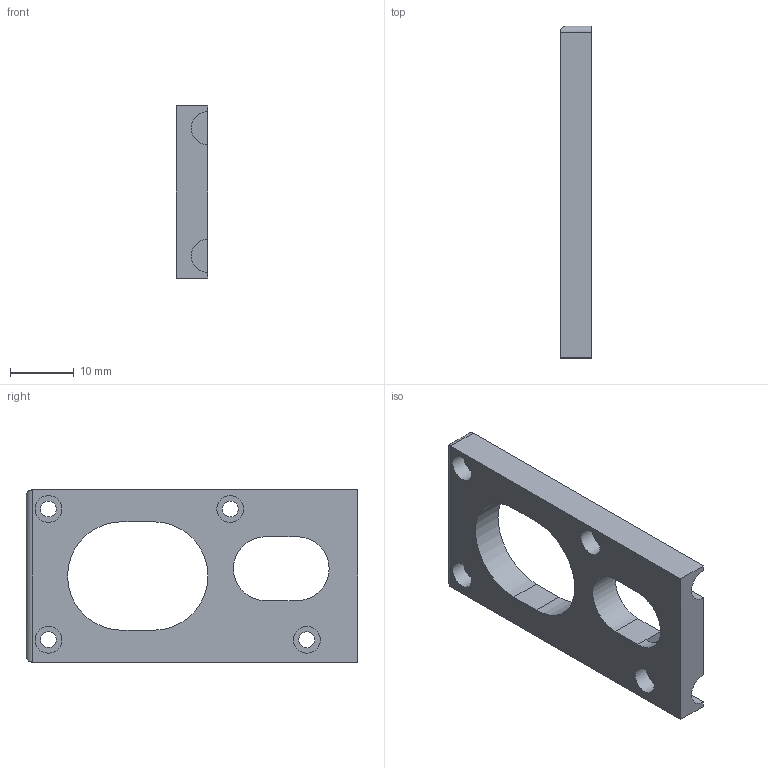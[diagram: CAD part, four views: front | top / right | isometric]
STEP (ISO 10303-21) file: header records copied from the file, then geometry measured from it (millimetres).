
FILE_DESCRIPTION(/* description */ (''),/* implementation_level */ '2;1');
FILE_NAME(/* name */ 'Z:\Flow\Inventor\Spritzenpumpe\Spritzenpumpe beweglich Mutter.stp',/* time_stamp */ '2018-09-10T16:00:53+02:00',/* author */ ('JN'),/* organization */ (''),/* preprocessor_version */ 'ST-DEVELOPER v16.13',/* originating_system */ 'Autodesk Inventor 2018',/* authorisation */ '');
FILE_SCHEMA (('AUTOMOTIVE_DESIGN { 1 0 10303 214 3 1 1 }'));
Length unit declared in the file: millimetre
Products named in the file (1): Spritzenpumpe beweglich Mutter
Bounding box: 5 x 52 x 27 mm (x, y, z)
Volume: 4428.6 mm3; surface area: 3450.8 mm2
Topology: 1 solids, 1 shells, 40 faces, 98 edges, 64 vertices
Faces by surface type: plane 23, cylinder 17
Full cylindrical faces by diameter (mm): 2.5 x4, 4.2 x4
Entity records: 1205 total; most frequent: DIRECTION 204, CARTESIAN_POINT 195, ORIENTED_EDGE 180, EDGE_CURVE 90, AXIS2_PLACEMENT_3D 73, EDGE_LOOP 64, VERTEX_POINT 64, LINE 58
